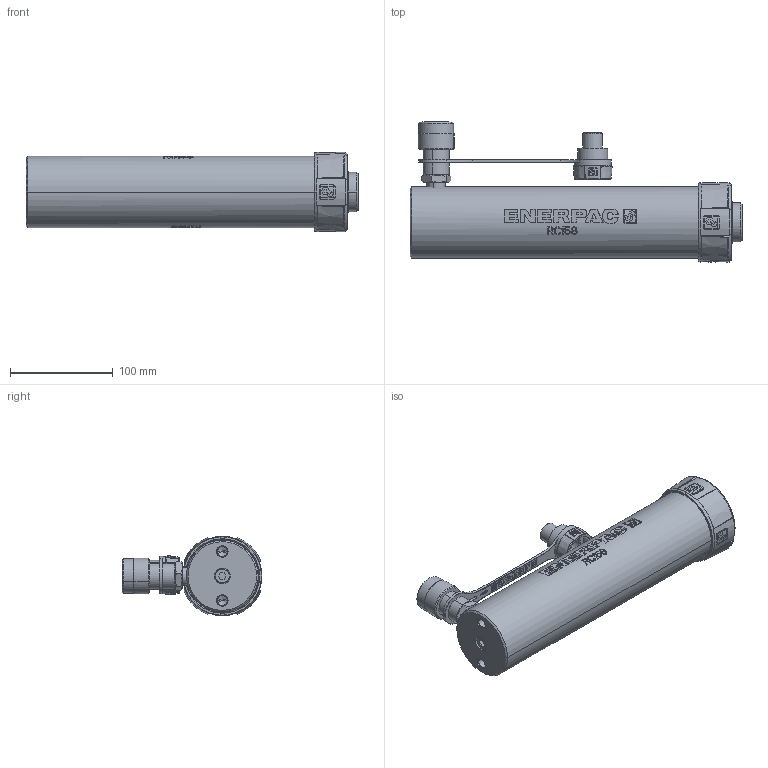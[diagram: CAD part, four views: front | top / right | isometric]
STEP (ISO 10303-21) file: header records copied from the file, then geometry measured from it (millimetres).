
FILE_DESCRIPTION((''),'2;1');
FILE_NAME('RC158_SW0004','2018-02-15T',('ray.paasila'),(''),'CREO PARAMETRIC BY PTC INC, 2015290','CREO PARAMETRIC BY PTC INC, 2015290','');
FILE_SCHEMA(('CONFIG_CONTROL_DESIGN'));
Products named in the file (1): RC158_SW0004
Bounding box: 323.07 x 136.23 x 77.15 mm (x, y, z)
Surface area: 151597.4 mm2 (no closed solid volume)
Topology: 0 solids, 92 shells, 685 faces, 3589 edges, 2979 vertices
Faces by surface type: plane 331, cone 101, cylinder 89, bspline 65, torus 62, extrusion 29, revolution 8
Entity records: 90936 total; most frequent: CARTESIAN_POINT 65839, ORIENTED_EDGE 4900, DIRECTION 4102, EDGE_CURVE 3585, VERTEX_POINT 2979, VECTOR 1726, LINE 1697, B_SPLINE_CURVE_WITH_KNOTS 1325
